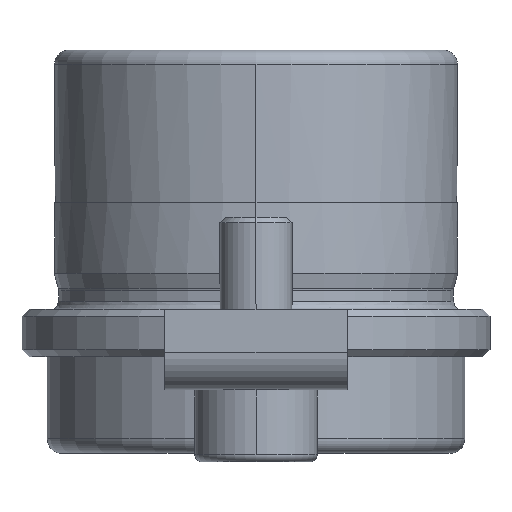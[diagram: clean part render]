
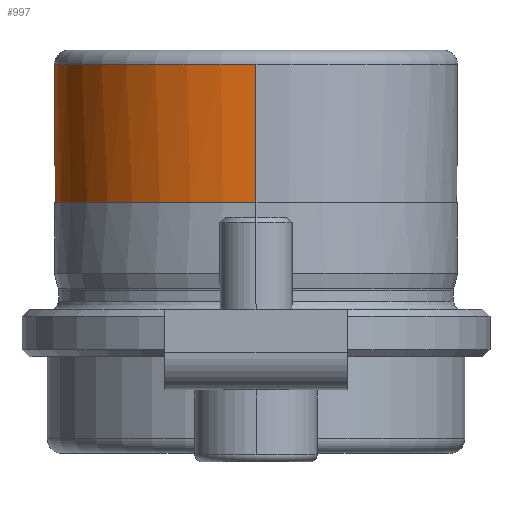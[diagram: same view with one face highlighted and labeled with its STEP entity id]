
A CAD part, left-side view. The second image highlights one B-rep face of the part: STEP entity #997.
In plain terms, the highlighted cylindrical face has radius 13.99 mm (diameter 27.98 mm), a partial arc.
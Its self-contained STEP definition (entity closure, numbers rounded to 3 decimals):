
#928=CARTESIAN_POINT('',(0.0,0.,17.48));
#929=DIRECTION('',(0.0,0.0,-1.0));
#930=DIRECTION('',(1.0,0.0,0.0));
#931=AXIS2_PLACEMENT_3D('',#928,#929,#930);
#932=CYLINDRICAL_SURFACE('',#931,13.99);
#933=CARTESIAN_POINT('',(13.99,0.,8.6));
#934=VERTEX_POINT('',#933);
#935=CARTESIAN_POINT('',(13.99,0.,17.));
#936=VERTEX_POINT('',#935);
#937=CARTESIAN_POINT('',(13.99,0.,8.6));
#938=DIRECTION('',(0.0,0.0,1.0));
#939=VECTOR('',#938,8.4);
#940=LINE('',#937,#939);
#941=EDGE_CURVE('',#934,#936,#940,.T.);
#942=ORIENTED_EDGE('',*,*,#941,.F.);
#943=CARTESIAN_POINT('',(13.817,2.191,7.4));
#944=VERTEX_POINT('',#943);
#945=CARTESIAN_POINT('',(13.99,0.,8.6));
#946=CARTESIAN_POINT('',(13.99,0.164,8.6));
#947=CARTESIAN_POINT('',(13.987,0.333,8.584));
#948=CARTESIAN_POINT('',(13.975,0.669,8.518));
#949=CARTESIAN_POINT('',(13.966,0.836,8.468));
#950=CARTESIAN_POINT('',(13.943,1.156,8.335));
#951=CARTESIAN_POINT('',(13.929,1.31,8.253));
#952=CARTESIAN_POINT('',(13.9,1.593,8.062));
#953=CARTESIAN_POINT('',(13.884,1.723,7.954));
#954=CARTESIAN_POINT('',(13.853,1.954,7.723));
#955=CARTESIAN_POINT('',(13.838,2.062,7.593));
#956=CARTESIAN_POINT('',(13.821,2.169,7.434));
#957=CARTESIAN_POINT('',(13.819,2.18,7.417));
#958=CARTESIAN_POINT('',(13.817,2.191,7.4));
#959=B_SPLINE_CURVE_WITH_KNOTS('',3,(#945,#946,#947,#948,#949,#950,#951,#952,#953,#954,#955,#956,#957,#958),.UNSPECIFIED.,.F.,.U.,(4,2,2,2,2,2,4),(3.927,4.418,4.909,5.4,5.891,6.382,6.441),.UNSPECIFIED.);
#960=EDGE_CURVE('',#934,#944,#959,.T.);
#961=ORIENTED_EDGE('',*,*,#960,.T.);
#962=CARTESIAN_POINT('',(-13.99,0.,7.4));
#963=VERTEX_POINT('',#962);
#964=CARTESIAN_POINT('',(0.0,0.,7.4));
#965=DIRECTION('',(0.0,0.0,-1.0));
#966=DIRECTION('',(1.0,0.0,0.0));
#967=AXIS2_PLACEMENT_3D('',#964,#965,#966);
#968=CIRCLE('',#967,13.99);
#969=EDGE_CURVE('',#963,#944,#968,.T.);
#970=ORIENTED_EDGE('',*,*,#969,.F.);
#971=CARTESIAN_POINT('',(-13.99,0.,17.));
#972=VERTEX_POINT('',#971);
#973=CARTESIAN_POINT('',(-13.99,0.,7.4));
#974=DIRECTION('',(0.0,0.0,1.0));
#975=VECTOR('',#974,9.6);
#976=LINE('',#973,#975);
#977=EDGE_CURVE('',#963,#972,#976,.T.);
#978=ORIENTED_EDGE('',*,*,#977,.T.);
#979=CARTESIAN_POINT('',(0.0,13.99,17.));
#980=VERTEX_POINT('',#979);
#981=CARTESIAN_POINT('',(0.0,0.,17.));
#982=DIRECTION('',(0.0,0.0,-1.0));
#983=DIRECTION('',(1.0,0.0,0.0));
#984=AXIS2_PLACEMENT_3D('',#981,#982,#983);
#985=CIRCLE('',#984,13.99);
#986=EDGE_CURVE('',#972,#980,#985,.T.);
#987=ORIENTED_EDGE('',*,*,#986,.T.);
#988=CARTESIAN_POINT('',(0.0,0.,17.));
#989=DIRECTION('',(0.0,0.0,-1.0));
#990=DIRECTION('',(1.0,0.0,0.0));
#991=AXIS2_PLACEMENT_3D('',#988,#989,#990);
#992=CIRCLE('',#991,13.99);
#993=EDGE_CURVE('',#980,#936,#992,.T.);
#994=ORIENTED_EDGE('',*,*,#993,.T.);
#995=EDGE_LOOP('',(#942,#961,#970,#978,#987,#994));
#996=FACE_OUTER_BOUND('',#995,.T.);
#997=ADVANCED_FACE('',(#996),#932,.T.);
